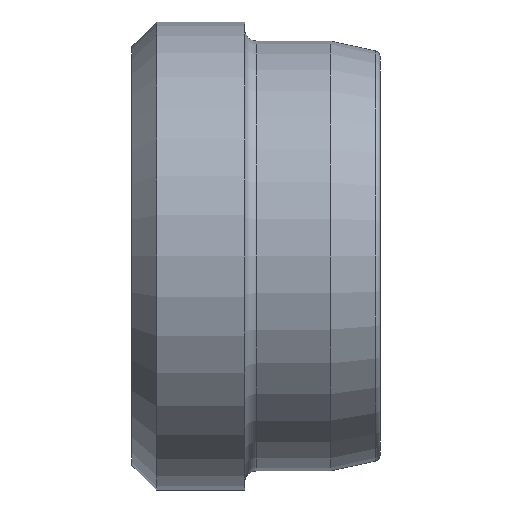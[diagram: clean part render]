
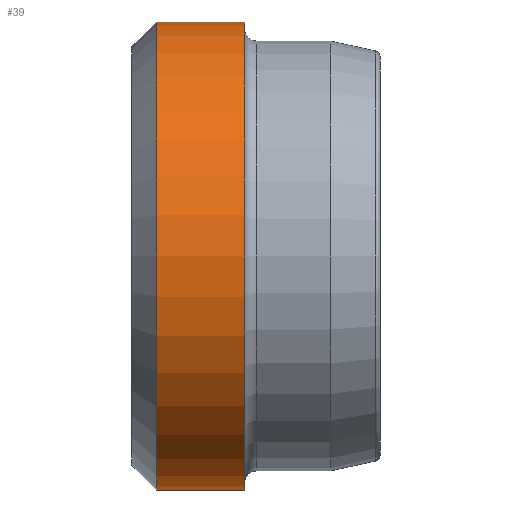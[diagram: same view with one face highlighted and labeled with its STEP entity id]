
A CAD part, front view. The second image highlights one B-rep face of the part: STEP entity #39.
In plain terms, the highlighted cylindrical face has radius 9.5 mm (diameter 19 mm), a full revolution.
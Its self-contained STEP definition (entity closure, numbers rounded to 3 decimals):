
#39 = ADVANCED_FACE( '', ( #86, #87 ), #88, .T. );
#86 = FACE_OUTER_BOUND( '', #153, .T. );
#87 = FACE_OUTER_BOUND( '', #154, .T. );
#88 = CYLINDRICAL_SURFACE( '', #155, 9.5 );
#153 = EDGE_LOOP( '', ( #248 ) );
#154 = EDGE_LOOP( '', ( #249 ) );
#155 = AXIS2_PLACEMENT_3D( '', #250, #251, #252 );
#248 = ORIENTED_EDGE( '', *, *, #335, .F. );
#249 = ORIENTED_EDGE( '', *, *, #336, .F. );
#250 = CARTESIAN_POINT( '', ( -3.038, -3.133, 0. ) );
#251 = DIRECTION( '', ( -1., 0., 0. ) );
#252 = DIRECTION( '', ( 0., 1., 0. ) );
#335 = EDGE_CURVE( '', #365, #365, #366, .T. );
#336 = EDGE_CURVE( '', #367, #367, #368, .T. );
#365 = VERTEX_POINT( '', #410 );
#366 = CIRCLE( '', #411, 9.5 );
#367 = VERTEX_POINT( '', #412 );
#368 = CIRCLE( '', #413, 9.5 );
#410 = CARTESIAN_POINT( '', ( -4.325, -12.633, 0. ) );
#411 = AXIS2_PLACEMENT_3D( '', #454, #455, #456 );
#412 = CARTESIAN_POINT( '', ( -0.75, 6.367, 0. ) );
#413 = AXIS2_PLACEMENT_3D( '', #457, #458, #459 );
#454 = CARTESIAN_POINT( '', ( -4.325, -3.133, 0. ) );
#455 = DIRECTION( '', ( -1., 0., 0. ) );
#456 = DIRECTION( '', ( 0., -1., 0. ) );
#457 = CARTESIAN_POINT( '', ( -0.75, -3.133, 0. ) );
#458 = DIRECTION( '', ( 1., 0., 0. ) );
#459 = DIRECTION( '', ( 0., 1., 0. ) );
